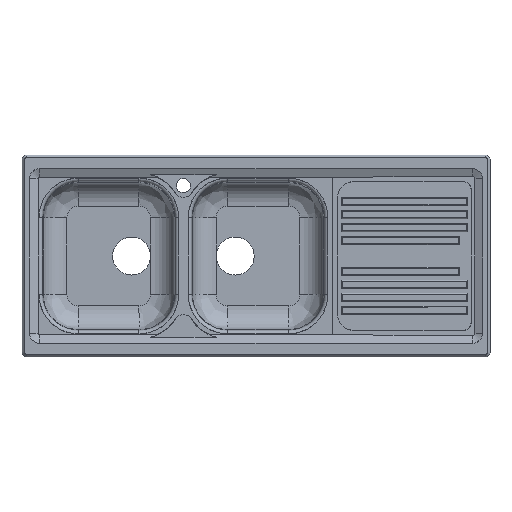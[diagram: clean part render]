
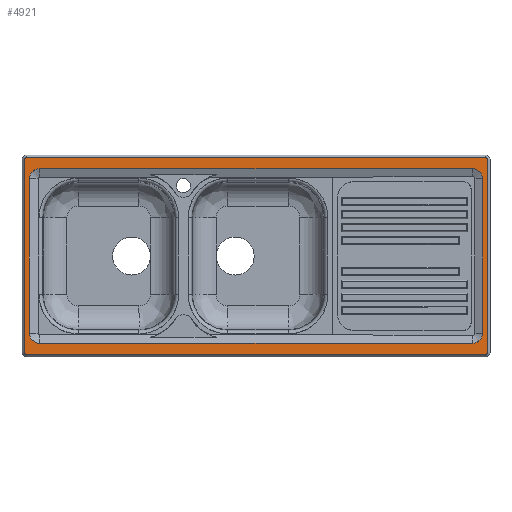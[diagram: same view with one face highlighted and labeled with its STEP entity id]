
A CAD part, top view. The second image highlights one B-rep face of the part: STEP entity #4921.
In plain terms, the highlighted planar face has unit normal (0, 0, 1).
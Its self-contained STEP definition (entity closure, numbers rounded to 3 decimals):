
#471=CARTESIAN_POINT('Vertex',(-536.5,216.5,12.)) ;
#474=CARTESIAN_POINT('Axis2P3D Location',(-536.5,191.5,12.)) ;
#478=CARTESIAN_POINT('Vertex',(-561.5,191.5,12.)) ;
#498=CARTESIAN_POINT('Line Origine',(-561.5,0.,12.)) ;
#502=CARTESIAN_POINT('Vertex',(-561.5,-191.5,12.)) ;
#522=CARTESIAN_POINT('Axis2P3D Location',(-536.5,-191.5,12.)) ;
#526=CARTESIAN_POINT('Vertex',(-536.5,-216.5,12.)) ;
#567=CARTESIAN_POINT('Line Origine',(0.,-216.5,12.)) ;
#571=CARTESIAN_POINT('Vertex',(536.5,-216.5,12.)) ;
#1786=CARTESIAN_POINT('Vertex',(569.,-244.,12.)) ;
#1798=CARTESIAN_POINT('Vertex',(574.,-239.,12.)) ;
#1801=CARTESIAN_POINT('Axis2P3D Location',(569.,-239.,12.)) ;
#4296=CARTESIAN_POINT('Vertex',(-574.,-239.,12.)) ;
#4303=CARTESIAN_POINT('Vertex',(-569.,-244.,12.)) ;
#4306=CARTESIAN_POINT('Axis2P3D Location',(-569.,-239.,12.)) ;
#4327=CARTESIAN_POINT('Vertex',(-569.,244.,12.)) ;
#4334=CARTESIAN_POINT('Vertex',(-574.,239.,12.)) ;
#4337=CARTESIAN_POINT('Axis2P3D Location',(-569.,239.,12.)) ;
#4358=CARTESIAN_POINT('Vertex',(574.,239.,12.)) ;
#4365=CARTESIAN_POINT('Vertex',(569.,244.,12.)) ;
#4368=CARTESIAN_POINT('Axis2P3D Location',(569.,239.,12.)) ;
#4385=CARTESIAN_POINT('Line Origine',(0.,-244.,12.)) ;
#4402=CARTESIAN_POINT('Line Origine',(-574.,0.,12.)) ;
#4419=CARTESIAN_POINT('Line Origine',(0.,244.,12.)) ;
#4436=CARTESIAN_POINT('Line Origine',(574.,0.,12.)) ;
#4802=CARTESIAN_POINT('Vertex',(561.5,191.5,12.)) ;
#4805=CARTESIAN_POINT('Axis2P3D Location',(536.5,191.5,12.)) ;
#4809=CARTESIAN_POINT('Vertex',(536.5,216.5,12.)) ;
#4833=CARTESIAN_POINT('Vertex',(561.5,-191.5,12.)) ;
#4836=CARTESIAN_POINT('Line Origine',(561.5,0.,12.)) ;
#4879=CARTESIAN_POINT('Axis2P3D Location',(536.5,-191.5,12.)) ;
#4891=CARTESIAN_POINT('Axis2P3D Location',(0.,0.,12.)) ;
#4906=CARTESIAN_POINT('Line Origine',(0.,216.5,12.)) ;
#475=DIRECTION('Axis2P3D Direction',(0.,0.,1.)) ;
#499=DIRECTION('Vector Direction',(0.,1.,0.)) ;
#523=DIRECTION('Axis2P3D Direction',(0.,0.,1.)) ;
#568=DIRECTION('Vector Direction',(-1.,0.,0.)) ;
#1802=DIRECTION('Axis2P3D Direction',(0.,0.,1.)) ;
#4307=DIRECTION('Axis2P3D Direction',(0.,0.,1.)) ;
#4338=DIRECTION('Axis2P3D Direction',(-0.,0.,1.)) ;
#4369=DIRECTION('Axis2P3D Direction',(0.,0.,1.)) ;
#4386=DIRECTION('Vector Direction',(-1.,0.,0.)) ;
#4403=DIRECTION('Vector Direction',(0.,1.,0.)) ;
#4420=DIRECTION('Vector Direction',(1.,0.,0.)) ;
#4437=DIRECTION('Vector Direction',(0.,-1.,0.)) ;
#4806=DIRECTION('Axis2P3D Direction',(0.,0.,1.)) ;
#4837=DIRECTION('Vector Direction',(0.,-1.,0.)) ;
#4880=DIRECTION('Axis2P3D Direction',(0.,0.,1.)) ;
#4892=DIRECTION('Axis2P3D Direction',(0.,0.,1.)) ;
#4893=DIRECTION('Axis2P3D XDirection',(1.,0.,0.)) ;
#4907=DIRECTION('Vector Direction',(1.,0.,0.)) ;
#476=AXIS2_PLACEMENT_3D('Circle Axis2P3D',#474,#475,$) ;
#524=AXIS2_PLACEMENT_3D('Circle Axis2P3D',#522,#523,$) ;
#1803=AXIS2_PLACEMENT_3D('Circle Axis2P3D',#1801,#1802,$) ;
#4308=AXIS2_PLACEMENT_3D('Circle Axis2P3D',#4306,#4307,$) ;
#4339=AXIS2_PLACEMENT_3D('Circle Axis2P3D',#4337,#4338,$) ;
#4370=AXIS2_PLACEMENT_3D('Circle Axis2P3D',#4368,#4369,$) ;
#4807=AXIS2_PLACEMENT_3D('Circle Axis2P3D',#4805,#4806,$) ;
#4881=AXIS2_PLACEMENT_3D('Circle Axis2P3D',#4879,#4880,$) ;
#4894=AXIS2_PLACEMENT_3D('Plane Axis2P3D',#4891,#4892,#4893) ;
#4897=ORIENTED_EDGE('',*,*,#4423,.T.) ;
#4898=ORIENTED_EDGE('',*,*,#4341,.T.) ;
#4899=ORIENTED_EDGE('',*,*,#4406,.T.) ;
#4900=ORIENTED_EDGE('',*,*,#4310,.T.) ;
#4901=ORIENTED_EDGE('',*,*,#4389,.T.) ;
#4902=ORIENTED_EDGE('',*,*,#1805,.T.) ;
#4903=ORIENTED_EDGE('',*,*,#4440,.T.) ;
#4904=ORIENTED_EDGE('',*,*,#4372,.T.) ;
#4912=ORIENTED_EDGE('',*,*,#4883,.T.) ;
#4913=ORIENTED_EDGE('',*,*,#573,.T.) ;
#4914=ORIENTED_EDGE('',*,*,#528,.T.) ;
#4915=ORIENTED_EDGE('',*,*,#504,.T.) ;
#4916=ORIENTED_EDGE('',*,*,#480,.T.) ;
#4917=ORIENTED_EDGE('',*,*,#4910,.T.) ;
#4918=ORIENTED_EDGE('',*,*,#4811,.T.) ;
#4919=ORIENTED_EDGE('',*,*,#4840,.T.) ;
#4920=FACE_BOUND('',#4911,.T.) ;
#500=VECTOR('Line Direction',#499,1.) ;
#569=VECTOR('Line Direction',#568,1.) ;
#4387=VECTOR('Line Direction',#4386,1.) ;
#4404=VECTOR('Line Direction',#4403,1.) ;
#4421=VECTOR('Line Direction',#4420,1.) ;
#4438=VECTOR('Line Direction',#4437,1.) ;
#4838=VECTOR('Line Direction',#4837,1.) ;
#4908=VECTOR('Line Direction',#4907,1.) ;
#4921=ADVANCED_FACE('Lavello',(#4905,#4920),#4895,.T.) ;
#477=CIRCLE('generated circle',#476,25.) ;
#525=CIRCLE('generated circle',#524,25.) ;
#1804=CIRCLE('generated circle',#1803,5.) ;
#4309=CIRCLE('generated circle',#4308,5.) ;
#4340=CIRCLE('generated circle',#4339,5.) ;
#4371=CIRCLE('generated circle',#4370,5.) ;
#4808=CIRCLE('generated circle',#4807,25.) ;
#4882=CIRCLE('generated circle',#4881,25.) ;
#480=EDGE_CURVE('',#479,#472,#477,.F.) ;
#504=EDGE_CURVE('',#503,#479,#501,.T.) ;
#528=EDGE_CURVE('',#527,#503,#525,.F.) ;
#573=EDGE_CURVE('',#572,#527,#570,.T.) ;
#1805=EDGE_CURVE('',#1787,#1799,#1804,.T.) ;
#4310=EDGE_CURVE('',#4297,#4304,#4309,.T.) ;
#4341=EDGE_CURVE('',#4328,#4335,#4340,.T.) ;
#4372=EDGE_CURVE('',#4359,#4366,#4371,.T.) ;
#4389=EDGE_CURVE('',#4304,#1787,#4388,.F.) ;
#4406=EDGE_CURVE('',#4335,#4297,#4405,.F.) ;
#4423=EDGE_CURVE('',#4366,#4328,#4422,.F.) ;
#4440=EDGE_CURVE('',#1799,#4359,#4439,.F.) ;
#4811=EDGE_CURVE('',#4810,#4803,#4808,.F.) ;
#4840=EDGE_CURVE('',#4803,#4834,#4839,.T.) ;
#4883=EDGE_CURVE('',#4834,#572,#4882,.F.) ;
#4910=EDGE_CURVE('',#472,#4810,#4909,.T.) ;
#4896=EDGE_LOOP('',(#4897,#4898,#4899,#4900,#4901,#4902,#4903,#4904)) ;
#4911=EDGE_LOOP('',(#4912,#4913,#4914,#4915,#4916,#4917,#4918,#4919)) ;
#4905=FACE_OUTER_BOUND('',#4896,.T.) ;
#501=LINE('Line',#498,#500) ;
#570=LINE('Line',#567,#569) ;
#4388=LINE('Line',#4385,#4387) ;
#4405=LINE('Line',#4402,#4404) ;
#4422=LINE('Line',#4419,#4421) ;
#4439=LINE('Line',#4436,#4438) ;
#4839=LINE('Line',#4836,#4838) ;
#4909=LINE('Line',#4906,#4908) ;
#4895=PLANE('',#4894) ;
#472=VERTEX_POINT('',#471) ;
#479=VERTEX_POINT('',#478) ;
#503=VERTEX_POINT('',#502) ;
#527=VERTEX_POINT('',#526) ;
#572=VERTEX_POINT('',#571) ;
#1787=VERTEX_POINT('',#1786) ;
#1799=VERTEX_POINT('',#1798) ;
#4297=VERTEX_POINT('',#4296) ;
#4304=VERTEX_POINT('',#4303) ;
#4328=VERTEX_POINT('',#4327) ;
#4335=VERTEX_POINT('',#4334) ;
#4359=VERTEX_POINT('',#4358) ;
#4366=VERTEX_POINT('',#4365) ;
#4803=VERTEX_POINT('',#4802) ;
#4810=VERTEX_POINT('',#4809) ;
#4834=VERTEX_POINT('',#4833) ;
